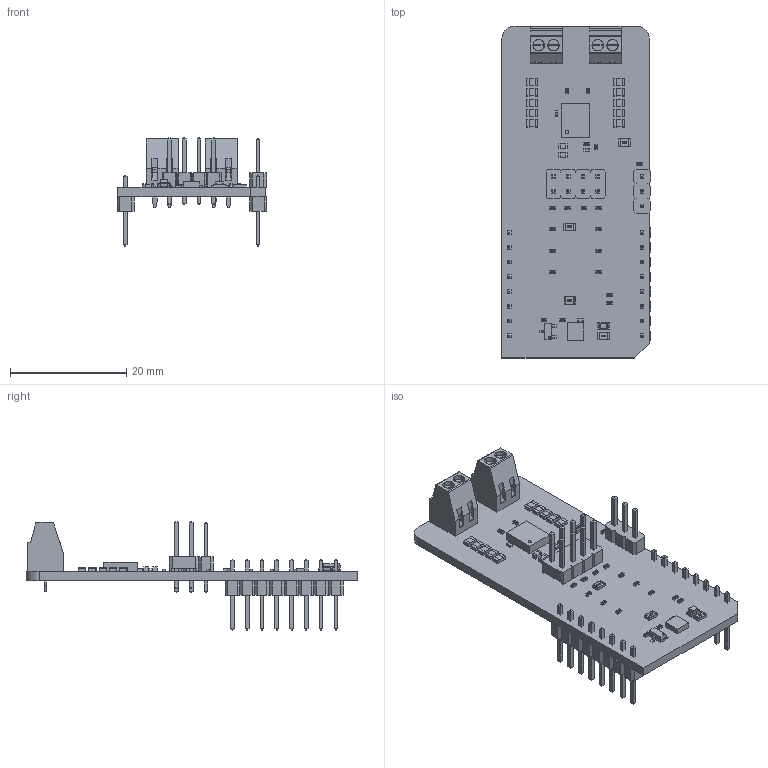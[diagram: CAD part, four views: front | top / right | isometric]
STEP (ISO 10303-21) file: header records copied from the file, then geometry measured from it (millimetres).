
FILE_DESCRIPTION(('Open CASCADE Model'),'2;1');
FILE_NAME('Open CASCADE Shape Model','2026-05-20T15:50:27',('Author'),( 'Open CASCADE'),'Open CASCADE STEP processor 7.5','Open CASCADE 7.5' ,'Unknown');
FILE_SCHEMA(('AUTOMOTIVE_DESIGN { 1 0 10303 214 1 1 1 1 }'));
Length unit declared in the file: millimetre
Products named in the file (74): PCB; Board; Open CASCADE STEP translator 7.5 1.1.1; R15; User Library-R_0402; C5; User Library-SMD CAPACITOR0805; R14; R13; R12; R11; R10; JP5; User Library-R_0805; R1; LD1; led_0805_green; R2; C1; User Library-SMD CAPACITOR0402; Q1; SOT23-3; U1; 8943970256; Extruded; R3; R17; R18; R19; R20; R16; R7; R6; R4; R9; R8; J2; HM2x4; 6130xx21121_PIN; 61300821121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
Assembly tree (116 placements, depth 7):
  PCB
    Board
      Open CASCADE STEP translator 7.5 1.1.1
    R15
      User Library-R_0402
    C5
      User Library-SMD CAPACITOR0805
    R14
      User Library-R_0402
    R13
      User Library-R_0402
    R12
      User Library-R_0402
    R11
      User Library-R_0402
    R10
      User Library-R_0402
    JP5
      User Library-R_0805
    R1
      User Library-R_0805
    LD1
      led_0805_green
    R2
      User Library-R_0402
    C1
      User Library-SMD CAPACITOR0402
    Q1
      SOT23-3
    U1
      8943970256
        Extruded
    R3
      User Library-R_0402
    R17
      User Library-R_0402
    R18
      User Library-R_0402
    R19
      User Library-R_0402
    R20
      User Library-R_0402
    R16
      User Library-R_0402
    R7
      User Library-R_0402
    R6
      User Library-R_0402
    R4
      User Library-R_0402
    R9
      User Library-R_0402
    R8
      User Library-R_0402
    J2
      HM2x4
        6130xx21121_PIN  x8
        61300821121
    J1
      User Library-Pin Header Strip 1x3
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Bounding box: 25.78 x 57.15 x 18.65 mm (x, y, z)
Volume: 3406.2 mm3; surface area: 6850.3 mm2
Topology: 145 solids, 145 shells, 3904 faces, 9678 edges, 6148 vertices
Faces by surface type: plane 2768, bspline 662, cylinder 348, sphere 126
Full cylindrical faces by diameter (mm): 0.6 x1
Entity records: 36157 total; most frequent: CARTESIAN_POINT 9033, ORIENTED_EDGE 4430, DIRECTION 4208, EDGE_CURVE 2215, LINE 1830, VECTOR 1830, VERTEX_POINT 1414, AXIS2_PLACEMENT_3D 1189
